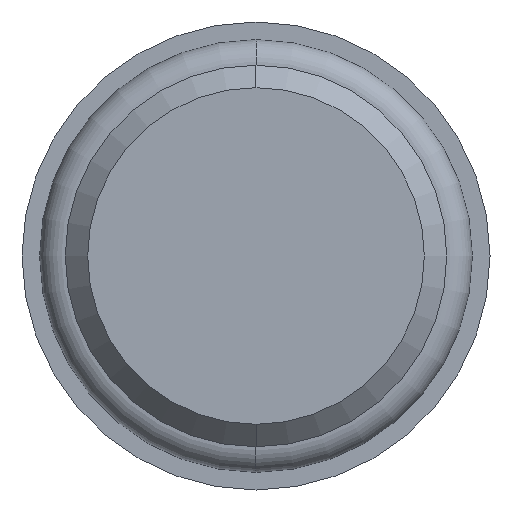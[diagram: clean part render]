
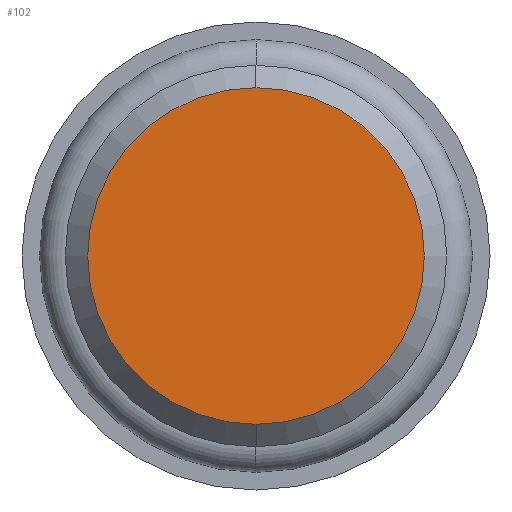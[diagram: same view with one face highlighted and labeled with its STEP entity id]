
A CAD part, left-side view. The second image highlights one B-rep face of the part: STEP entity #102.
In plain terms, the highlighted planar face has unit normal (-1, 0, 0).
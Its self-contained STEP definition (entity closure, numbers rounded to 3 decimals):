
#82=CARTESIAN_POINT('POINT5',(0.,
   0.,6.304));
#83=VERTEX_POINT('VERTEX5',#82);
#84=CARTESIAN_POINT('POINT6',(0.,
   0.,-6.304));
#85=VERTEX_POINT('VERTEX6',#84);
#86=CARTESIAN_POINT('POS8',(0.,0.,0.));
#87=DIRECTION('DIR15',(1.,0.,0.));
#88=DIRECTION('DIR16',(0.,0.,1.));
#89=AXIS2_PLACEMENT_3D('AXIS8',#86,#87,#88);
#90=CIRCLE('ELLIPSE7',#89,6.304);
#91=EDGE_CURVE('EDGE9',#83,#85,#90,.T.);
#92=ORIENTED_EDGE('COEDGE17',*,*,#91,.F.);
#93=EDGE_CURVE('EDGE10',#85,#83,#90,.T.);
#94=ORIENTED_EDGE('COEDGE18',*,*,#93,.F.);
#95=EDGE_LOOP('NONE',(#92,#94));
#96=FACE_BOUND('LOOP1',#95,.T.);
#97=CARTESIAN_POINT('POS9',(0.,0.,3.152)
   );
#98=DIRECTION('DIR17',(-1.,0.,0.));
#99=DIRECTION('DIR18',(0.,1.,0.));
#100=AXIS2_PLACEMENT_3D('AXIS9',#97,#98,#99);
#101=PLANE('PLANE1',#100);
#102=ADVANCED_FACE('FACE5',(#96),#101,.T.);
